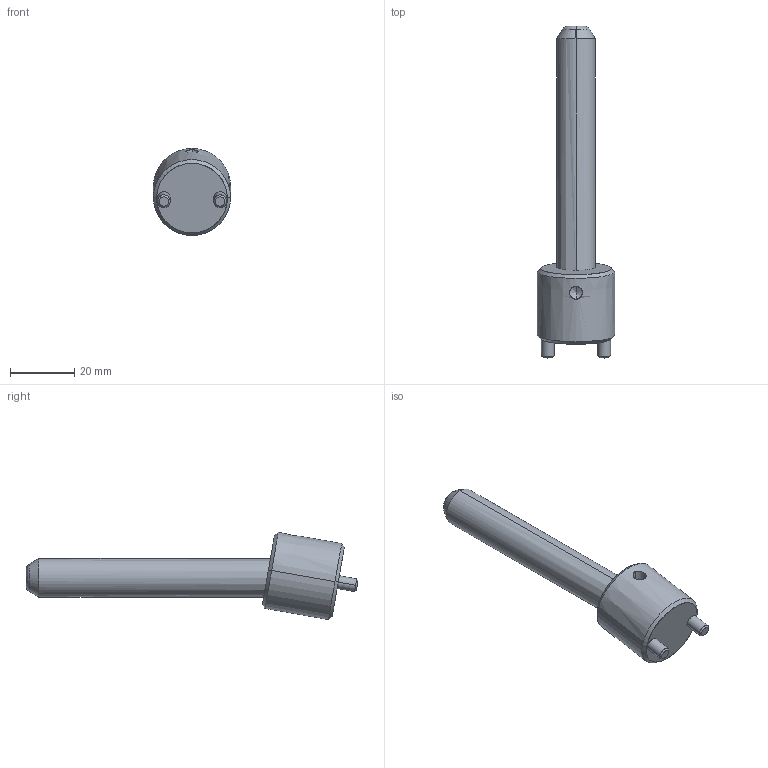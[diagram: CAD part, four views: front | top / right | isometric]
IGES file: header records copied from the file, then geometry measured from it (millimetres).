
Start section: START RECORD GO HERE.
Global section: file name: CI1012075.igs; native system: DASSAULT SYSTEMES CATIA V5 R20 - www.3ds.com; preprocessor: CATIA Version 5 Release 20 ; author: r.borello; organization: CFTORINO; date: 20190620.161012; units: millimetre
Bounding box: 24 x 103.27 x 27.11 mm (x, y, z)
Surface area: 7030.4 mm2 (no closed solid volume)
Topology: 0 solids, 0 shells, 39 faces, 162 edges, 160 vertices
Faces by surface type: revolution 32, plane 7
